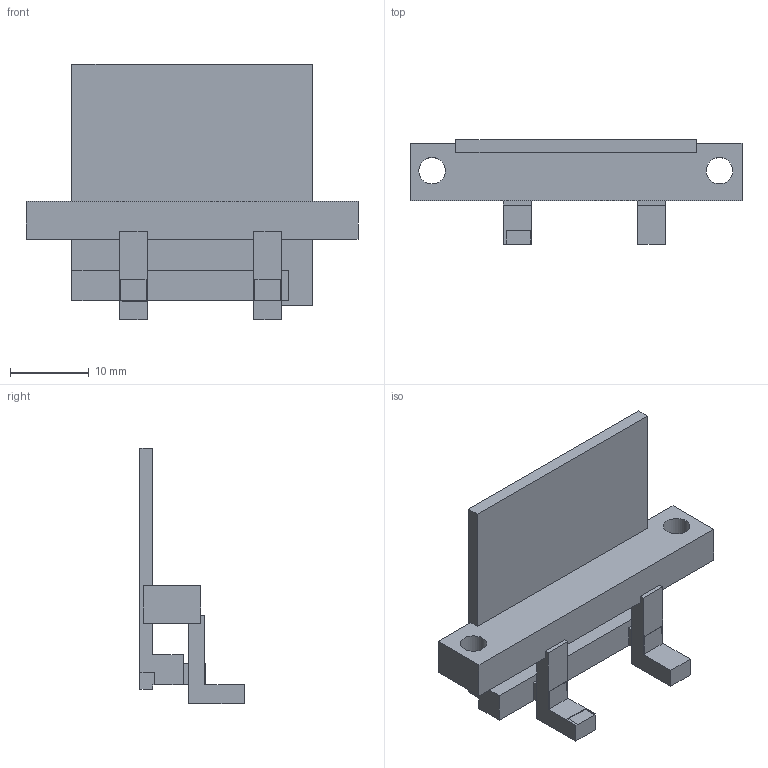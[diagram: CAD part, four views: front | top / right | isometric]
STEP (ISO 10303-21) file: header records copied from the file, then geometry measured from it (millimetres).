
FILE_DESCRIPTION(('Open CASCADE Model'),'2;1');
FILE_NAME('Open CASCADE Shape Model','2026-11-20T15:36:02',('Author'),( 'Open CASCADE'),'Open CASCADE STEP processor 8.0','Open CASCADE 8.0' ,'Unknown');
FILE_SCHEMA(('AUTOMOTIVE_DESIGN { 1 0 10303 214 1 1 1 1 }'));
Length unit declared in the file: millimetre
Products named in the file (1): Open CASCADE STEP translator 8.0 3
Bounding box: 42.05 x 13.2 x 32.4 mm (x, y, z)
Volume: 3209.8 mm3; surface area: 3416.3 mm2
Topology: 1 solids, 1 shells, 86 faces, 252 edges, 168 vertices
Faces by surface type: plane 84, cylinder 2
Full cylindrical faces by diameter (mm): 3.36 x2
Entity records: 5857 total; most frequent: CARTESIAN_POINT 1256, DIRECTION 689, ORIENTED_EDGE 504, PCURVE 504, DEFINITIONAL_REPRESENTATION 504, LINE 503, VECTOR 503, EDGE_CURVE 252
